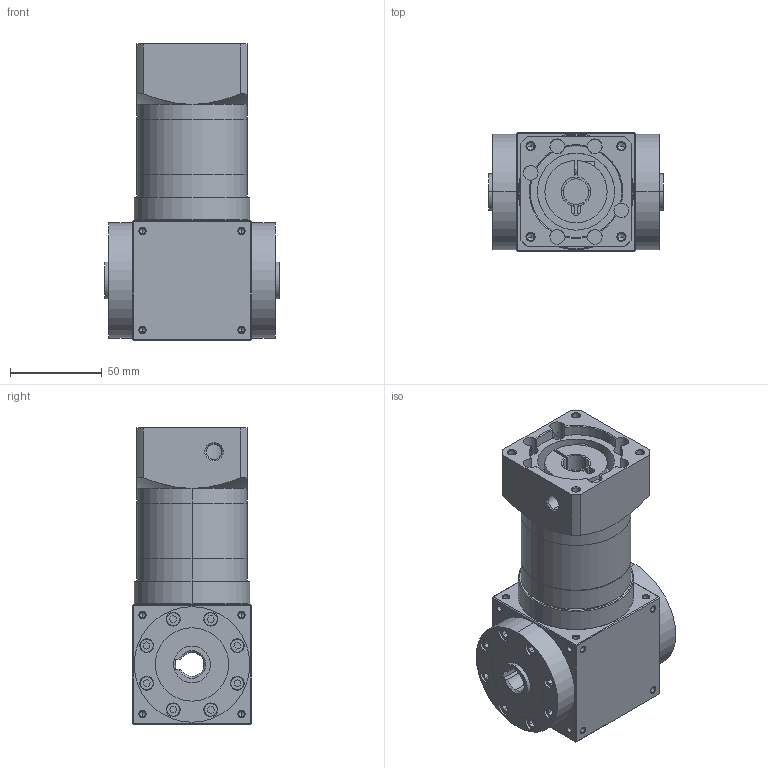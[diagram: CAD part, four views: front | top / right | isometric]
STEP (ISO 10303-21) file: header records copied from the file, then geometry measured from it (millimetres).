
FILE_DESCRIPTION (( 'STEP AP203' ), '1' );
FILE_NAME ('AT065-L3-FH-14-50-70M5.STEP', '2026-04-20T03:54:16', ( 'Windows User' ), ( 'P R C' ), 'SwSTEP 2.0', 'SolidWorks 2016', '' );
FILE_SCHEMA (( 'CONFIG_CONTROL_DESIGN' ));
Length unit declared in the file: millimetre
Products named in the file (6): AT65FH-转角箱体-批量-孔输出; AT65-怀堤楊擘-蠶講; AT065-输入法兰-B-50-M5-70; 输入胀套-16; AT065双级齿圈; AT065-L3-FH-14-50-70M5
Assembly tree (5 placements, depth 2):
  AT065-L3-FH-14-50-70M5
    AT65FH-转角箱体-批量-孔输出
    AT65-怀堤楊擘-蠶講
    AT065-输入法兰-B-50-M5-70
    输入胀套-16
    AT065双级齿圈
Bounding box: 95 x 65 x 161.5 mm (x, y, z)
Volume: 455185.5 mm3; surface area: 121820.4 mm2
Topology: 6 solids, 18 shells, 1643 faces, 4218 edges, 2658 vertices
Faces by surface type: plane 789, cylinder 404, cone 296, bspline 154
Entity records: 56111 total; most frequent: CARTESIAN_POINT 16918, ORIENTED_EDGE 8220, DIRECTION 7536, EDGE_CURVE 4110, VERTEX_POINT 2658, LINE 2528, VECTOR 2528, AXIS2_PLACEMENT_3D 2504
